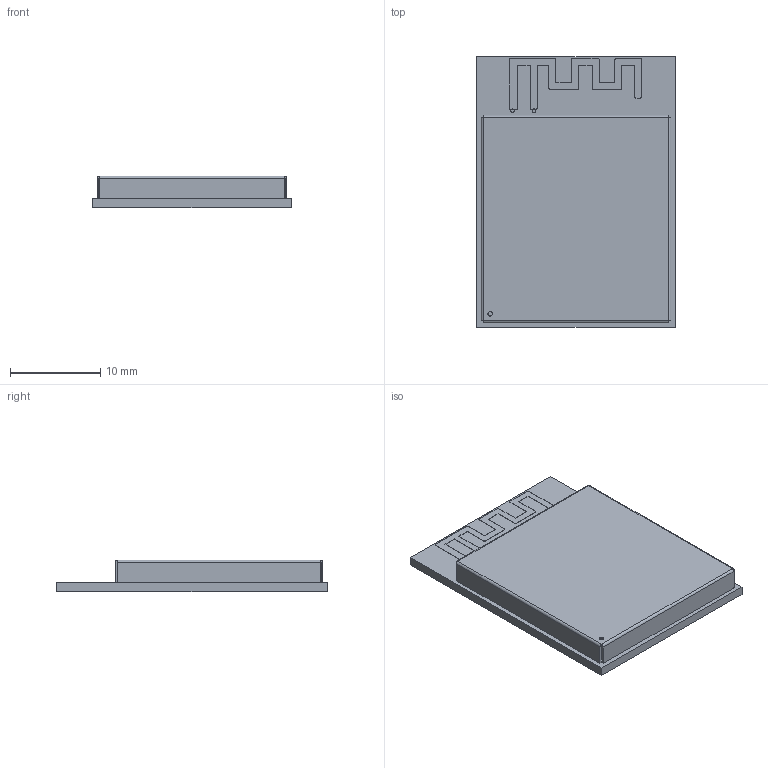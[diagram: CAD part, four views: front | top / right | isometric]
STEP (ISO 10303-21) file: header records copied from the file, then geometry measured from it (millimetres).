
FILE_DESCRIPTION (( 'STEP AP214' ), '1' );
FILE_NAME ('ESP32-S31-WROOM-3_V1.STEP', '2026-06-10T12:06:35', ( 'Windows User' ), ( 'P R C' ), 'SwSTEP 2.0', 'SolidWorks 2022', '' );
FILE_SCHEMA (( 'AUTOMOTIVE_DESIGN' ));
Length unit declared in the file: millimetre
Products named in the file (31): Submodel-D__3D_design_ESP32-S31_module_module_ESP32-S31-WROOM-3-3d_PCB_ESP32-S31-WROOM-3_V1.1_20260514_PCB_3D_ImportedPartModels_R0201_20210301.STEP; C0402_20210301.xtd; Submodel-R0201_part_R0201; S31-wroom-3-solder_pad; C0201_20210301.xtd; Submodel-D__3D_design_ESP32-S31_module_module_ESP32-S31-WROOM-3-3d_PCB_ESP32-S31-WROOM-3_V1.1_20260514_PCB_3D_ImportedPartModels_SOD882.step; Submodel-D__3D_design_ESP32-S31_module_module_ESP32-S31-WROOM-3-3d_PCB_ESP32-S31-WROOM-3_V1.1_20260514_PCB_3D_ImportedPartModels_ESP32-S31 - 20260402.STEP; R0201_20210301.xtd; DesignRootModel; Submodel-D__3D_design_ESP32-S31_module_module_ESP32-S31-WROOM-3-3d_PCB_ESP32-S31-WROOM-3_V1.1_20260514_PCB_3D_ImportedPartModels_XTAL3225_20210301.STEP; SOD882.xtd; Submodel-SOD882_part_SOD882; ESP32-S31 - 20260402.xtd; ShieldBox_ESP32-S31-WROOM-3_V1.1_20260514; Imported; Submodel-QFN80_0P35_8_E6P5_part_QFN80_0P35_8_E6P5; SOP8_rev1_20210308.xtd; Submodel-WSON8_1P27_8X6_E4P3X3P4_part_WSON8_1P27_8X6_E4P3X3P4; ESP32-S31-WROOM-3_V1; Submodel-XTAL3225_2016_part_XTAL3225_2016; Submodel-C0201_part_C0201; Submodel-D__3D_design_ESP32-S31_module_module_ESP32-S31-WROOM-3-3d_PCB_ESP32-S31-WROOM-3_V1.1_20260514_PCB_3D_ImportedPartModels_SOP8_rev1_20210308.STEP; MINI-ANT-TYPE-B; Submodel-C0402_part_C0402; L0201_20210301.xtd; XTAL3225_20210301.xtd; Submodel-D__3D_design_ESP32-S31_module_module_ESP32-S31-WROOM-3-3d_PCB_ESP32-S31-WROOM-3_V1.1_20260514_PCB_3D_ImportedPartModels_L0201_20210301.STEP; uid__4030; Submodel-L0201_part_L0201; Submodel-D__3D_design_ESP32-S31_module_module_ESP32-S31-WROOM-3-3d_PCB_ESP32-S31-WROOM-3_V1.1_20260514_PCB_3D_ImportedPartModels_C0201_20210301.STEP; Submodel-D__3D_design_ESP32-S31_module_module_ESP32-S31-WROOM-3-3d_PCB_ESP32-S31-WROOM-3_V1.1_20260514_PCB_3D_ImportedPartModels_C0402_20210301.STEP
Assembly tree (66 placements, depth 5):
  ESP32-S31-WROOM-3_V1
    DesignRootModel
      uid__4030
      Submodel-L0201_part_L0201  x5
        Submodel-D__3D_design_ESP32-S31_module_module_ESP32-S31-WROOM-3-3d_PCB_ESP32-S31-WROOM-3_V1.1_20260514_PCB_3D_ImportedPartModels_L0201_20210301.STEP
          L0201_20210301.xtd
      Submodel-C0201_part_C0201  x21
        Submodel-D__3D_design_ESP32-S31_module_module_ESP32-S31-WROOM-3-3d_PCB_ESP32-S31-WROOM-3_V1.1_20260514_PCB_3D_ImportedPartModels_C0201_20210301.STEP
          C0201_20210301.xtd
      Submodel-QFN80_0P35_8_E6P5_part_QFN80_0P35_8_E6P5
        Submodel-D__3D_design_ESP32-S31_module_module_ESP32-S31-WROOM-3-3d_PCB_ESP32-S31-WROOM-3_V1.1_20260514_PCB_3D_ImportedPartModels_ESP32-S31 - 20260402.STEP
          ESP32-S31 - 20260402.xtd
      Submodel-R0201_part_R0201  x11
        Submodel-D__3D_design_ESP32-S31_module_module_ESP32-S31-WROOM-3-3d_PCB_ESP32-S31-WROOM-3_V1.1_20260514_PCB_3D_ImportedPartModels_R0201_20210301.STEP
          R0201_20210301.xtd
      Submodel-SOD882_part_SOD882
        Submodel-D__3D_design_ESP32-S31_module_module_ESP32-S31-WROOM-3-3d_PCB_ESP32-S31-WROOM-3_V1.1_20260514_PCB_3D_ImportedPartModels_SOD882.step
          SOD882.xtd
      Submodel-C0402_part_C0402  x3
        Submodel-D__3D_design_ESP32-S31_module_module_ESP32-S31-WROOM-3-3d_PCB_ESP32-S31-WROOM-3_V1.1_20260514_PCB_3D_ImportedPartModels_C0402_20210301.STEP
          C0402_20210301.xtd
      Submodel-WSON8_1P27_8X6_E4P3X3P4_part_WSON8_1P27_8X6_E4P3X3P4
        Submodel-D__3D_design_ESP32-S31_module_module_ESP32-S31-WROOM-3-3d_PCB_ESP32-S31-WROOM-3_V1.1_20260514_PCB_3D_ImportedPartModels_SOP8_rev1_20210308.STEP
          SOP8_rev1_20210308.xtd
      Submodel-XTAL3225_2016_part_XTAL3225_2016
        Submodel-D__3D_design_ESP32-S31_module_module_ESP32-S31-WROOM-3-3d_PCB_ESP32-S31-WROOM-3_V1.1_20260514_PCB_3D_ImportedPartModels_XTAL3225_20210301.STEP
          XTAL3225_20210301.xtd
    Imported
    MINI-ANT-TYPE-B
    S31-wroom-3-solder_pad
    ShieldBox_ESP32-S31-WROOM-3_V1.1_20260514
Bounding box: 22 x 30 x 3.54 mm (x, y, z)
Volume: 895.7 mm3; surface area: 3563.7 mm2
Topology: 371 solids, 372 shells, 5170 faces, 12500 edges, 7924 vertices
Faces by surface type: plane 3313, cylinder 1516, bspline 341
Entity records: 149844 total; most frequent: CARTESIAN_POINT 24565, DIRECTION 17992, ORIENTED_EDGE 17864, EDGE_CURVE 8932, LINE 6722, VECTOR 6722, VERTEX_POINT 5908, AXIS2_PLACEMENT_3D 5635
